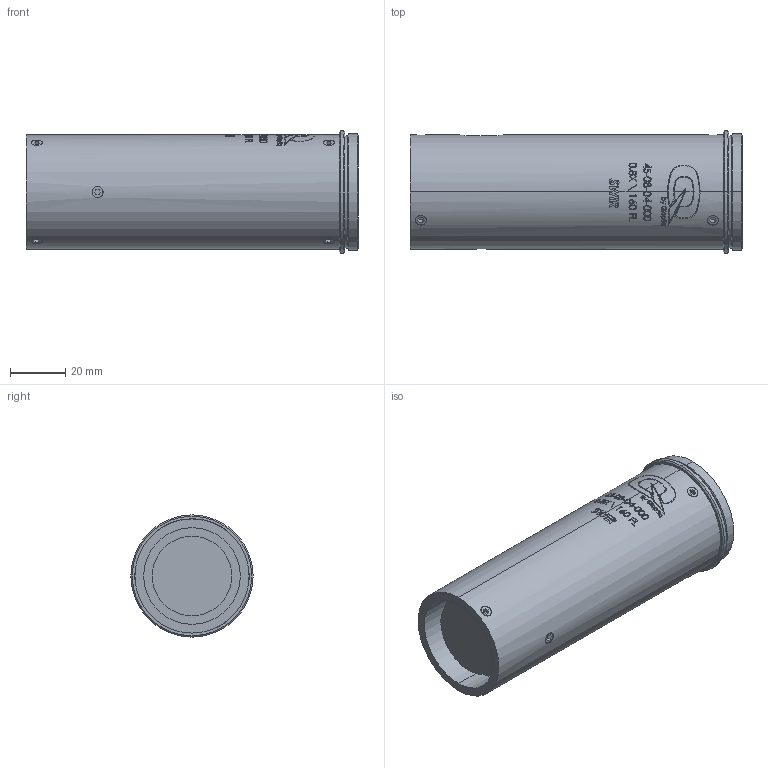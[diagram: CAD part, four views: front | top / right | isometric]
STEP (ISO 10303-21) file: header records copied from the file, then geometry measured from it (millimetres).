
FILE_DESCRIPTION (( 'STEP AP203' ), '1' );
FILE_NAME ('45-08-04-000 OUTLINE.STEP', '2020-08-18T01:29:08', ( '' ), ( '' ), 'SwSTEP 2.0', 'SolidWorks 2018', '' );
FILE_SCHEMA (( 'CONFIG_CONTROL_DESIGN' ));
Products named in the file (1): 45-08-04-000 OUTLINE
Bounding box: 120.02 x 44.2 x 44.2 mm (x, y, z)
Volume: 144218.4 mm3; surface area: 21825.2 mm2
Topology: 1 solids, 1 shells, 530 faces, 1381 edges, 934 vertices
Faces by surface type: bspline 231, plane 193, cylinder 96, cone 8, sphere 2
Entity records: 44015 total; most frequent: CARTESIAN_POINT 32904, ORIENTED_EDGE 2762, DIRECTION 1397, EDGE_CURVE 1381, VERTEX_POINT 934, B_SPLINE_CURVE_WITH_KNOTS 788, EDGE_LOOP 611, ADVANCED_FACE 530
